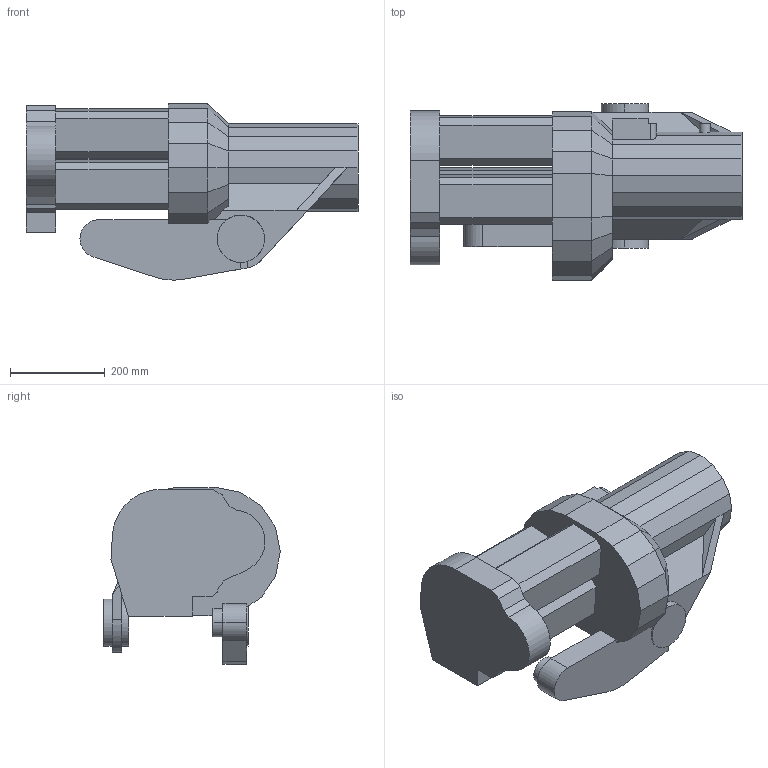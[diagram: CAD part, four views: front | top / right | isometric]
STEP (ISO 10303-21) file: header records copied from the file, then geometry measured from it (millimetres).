
FILE_DESCRIPTION (( 'STEP AP214' ), '1' );
FILE_NAME ('IRB4400_60_m2000_rev1_01-8.STEP', '2001-11-21T06:35:13', ( 'Jonas Eriksson' ), ( 'Evotech Engineering AB' ), 'SwSTEP 2.0', 'SolidWorks 2001287', '' );
FILE_SCHEMA (( 'AUTOMOTIVE_DESIGN' ));
Length unit declared in the file: millimetre
Products named in the file (1): IRB4400_60_m2000_rev1_01-8
Bounding box: 701.5 x 373.33 x 372.54 mm (x, y, z)
Volume: 30966677.6 mm3; surface area: 1072548.7 mm2
Topology: 1 solids, 1 shells, 205 faces, 547 edges, 352 vertices
Faces by surface type: plane 177, cylinder 28
Entity records: 6270 total; most frequent: CARTESIAN_POINT 1174, ORIENTED_EDGE 1094, DIRECTION 976, EDGE_CURVE 547, LINE 486, VECTOR 486, VERTEX_POINT 352, AXIS2_PLACEMENT_3D 245
